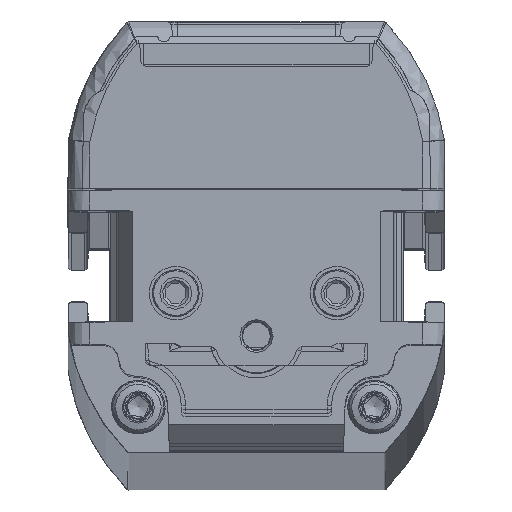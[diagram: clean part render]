
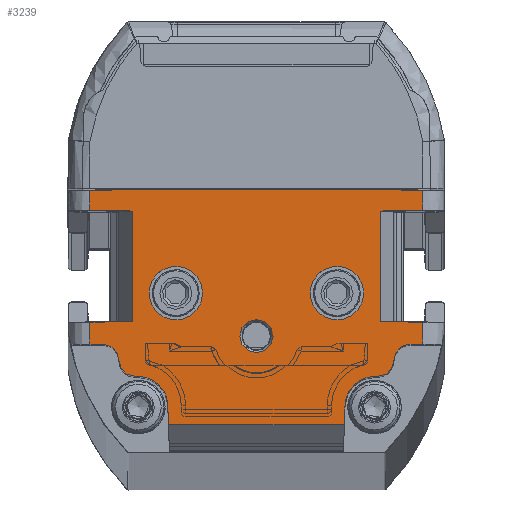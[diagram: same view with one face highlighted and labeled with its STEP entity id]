
A CAD part, top view. The second image highlights one B-rep face of the part: STEP entity #3239.
In plain terms, the highlighted planar face has unit normal (0, 0, 1).
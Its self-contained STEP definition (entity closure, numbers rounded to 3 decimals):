
#1178=FACE_BOUND('',#5343,.T.);
#1179=FACE_BOUND('',#5344,.T.);
#1180=FACE_BOUND('',#5345,.T.);
#1181=FACE_BOUND('',#5346,.T.);
#1900=CIRCLE('',#17502,2.5);
#1901=CIRCLE('',#17504,2.5);
#1902=CIRCLE('',#17506,1.55);
#1905=CIRCLE('',#17576,1.5);
#1906=CIRCLE('',#17577,1.5);
#1907=CIRCLE('',#17578,1.5);
#1908=CIRCLE('',#17579,1.5);
#1909=CIRCLE('',#17580,2.75);
#1910=CIRCLE('',#17581,2.75);
#3239=ADVANCED_FACE('',(#1178,#1179,#1180,#1181),#3754,.T.);
#3754=PLANE('',#17582);
#5343=EDGE_LOOP('',(#9281));
#5344=EDGE_LOOP('',(#9282));
#5345=EDGE_LOOP('',(#9283));
#5346=EDGE_LOOP('',(#9284,#9285,#9286,#9287,#9288,#9289,#9290,#9291,#9292,
#9293,#9294,#9295,#9296,#9297,#9298,#9299,#9300,#9301,#9302,#9303,#9304,
#9305,#9306,#9307,#9308,#9309));
#9281=ORIENTED_EDGE('',*,*,#13579,.T.);
#9282=ORIENTED_EDGE('',*,*,#13578,.F.);
#9283=ORIENTED_EDGE('',*,*,#13577,.F.);
#9284=ORIENTED_EDGE('',*,*,#13699,.F.);
#9285=ORIENTED_EDGE('',*,*,#13700,.T.);
#9286=ORIENTED_EDGE('',*,*,#13701,.T.);
#9287=ORIENTED_EDGE('',*,*,#13702,.T.);
#9288=ORIENTED_EDGE('',*,*,#13630,.T.);
#9289=ORIENTED_EDGE('',*,*,#13576,.T.);
#9290=ORIENTED_EDGE('',*,*,#13573,.T.);
#9291=ORIENTED_EDGE('',*,*,#13572,.T.);
#9292=ORIENTED_EDGE('',*,*,#13698,.T.);
#9293=ORIENTED_EDGE('',*,*,#13703,.F.);
#9294=ORIENTED_EDGE('',*,*,#13704,.F.);
#9295=ORIENTED_EDGE('',*,*,#13705,.F.);
#9296=ORIENTED_EDGE('',*,*,#13692,.T.);
#9297=ORIENTED_EDGE('',*,*,#13568,.F.);
#9298=ORIENTED_EDGE('',*,*,#13564,.T.);
#9299=ORIENTED_EDGE('',*,*,#13563,.F.);
#9300=ORIENTED_EDGE('',*,*,#13603,.T.);
#9301=ORIENTED_EDGE('',*,*,#13706,.F.);
#9302=ORIENTED_EDGE('',*,*,#13707,.T.);
#9303=ORIENTED_EDGE('',*,*,#13708,.T.);
#9304=ORIENTED_EDGE('',*,*,#13709,.F.);
#9305=ORIENTED_EDGE('',*,*,#13710,.F.);
#9306=ORIENTED_EDGE('',*,*,#13711,.F.);
#9307=ORIENTED_EDGE('',*,*,#13611,.T.);
#9308=ORIENTED_EDGE('',*,*,#13712,.F.);
#9309=ORIENTED_EDGE('',*,*,#13713,.F.);
#11499=VERTEX_POINT('',#29891);
#11500=VERTEX_POINT('',#29893);
#11501=VERTEX_POINT('',#29897);
#11502=VERTEX_POINT('',#29901);
#11504=VERTEX_POINT('',#29907);
#11506=VERTEX_POINT('',#29911);
#11507=VERTEX_POINT('',#29915);
#11508=VERTEX_POINT('',#29919);
#11509=VERTEX_POINT('',#29923);
#11510=VERTEX_POINT('',#29926);
#11511=VERTEX_POINT('',#29929);
#11528=VERTEX_POINT('',#30023);
#11533=VERTEX_POINT('',#30037);
#11534=VERTEX_POINT('',#30039);
#11547=VERTEX_POINT('',#30079);
#11581=VERTEX_POINT('',#30332);
#11585=VERTEX_POINT('',#30342);
#11586=VERTEX_POINT('',#30346);
#11587=VERTEX_POINT('',#30347);
#11588=VERTEX_POINT('',#30349);
#11589=VERTEX_POINT('',#30351);
#11590=VERTEX_POINT('',#30354);
#11591=VERTEX_POINT('',#30356);
#11592=VERTEX_POINT('',#30359);
#11593=VERTEX_POINT('',#30361);
#11594=VERTEX_POINT('',#30363);
#11595=VERTEX_POINT('',#30365);
#11596=VERTEX_POINT('',#30367);
#11597=VERTEX_POINT('',#30370);
#13563=EDGE_CURVE('',#11500,#11499,#15088,.T.);
#13564=EDGE_CURVE('',#11501,#11499,#15089,.T.);
#13568=EDGE_CURVE('',#11501,#11502,#15092,.T.);
#13572=EDGE_CURVE('',#11504,#11506,#15095,.T.);
#13573=EDGE_CURVE('',#11507,#11504,#15096,.T.);
#13576=EDGE_CURVE('',#11508,#11507,#15098,.T.);
#13577=EDGE_CURVE('',#11509,#11509,#1900,.T.);
#13578=EDGE_CURVE('',#11510,#11510,#1901,.T.);
#13579=EDGE_CURVE('',#11511,#11511,#1902,.T.);
#13603=EDGE_CURVE('',#11500,#11528,#15113,.T.);
#13611=EDGE_CURVE('',#11533,#11534,#15119,.T.);
#13630=EDGE_CURVE('',#11547,#11508,#15132,.T.);
#13692=EDGE_CURVE('',#11581,#11502,#15175,.T.);
#13698=EDGE_CURVE('',#11506,#11585,#15177,.T.);
#13699=EDGE_CURVE('',#11586,#11587,#15178,.T.);
#13700=EDGE_CURVE('',#11586,#11588,#1905,.T.);
#13701=EDGE_CURVE('',#11588,#11589,#1906,.T.);
#13702=EDGE_CURVE('',#11589,#11547,#15179,.T.);
#13703=EDGE_CURVE('',#11590,#11585,#15180,.T.);
#13704=EDGE_CURVE('',#11591,#11590,#15181,.T.);
#13705=EDGE_CURVE('',#11581,#11591,#15182,.T.);
#13706=EDGE_CURVE('',#11592,#11528,#15183,.T.);
#13707=EDGE_CURVE('',#11592,#11593,#1907,.T.);
#13708=EDGE_CURVE('',#11593,#11594,#1908,.T.);
#13709=EDGE_CURVE('',#11595,#11594,#15184,.T.);
#13710=EDGE_CURVE('',#11596,#11595,#1909,.T.);
#13711=EDGE_CURVE('',#11533,#11596,#15185,.T.);
#13712=EDGE_CURVE('',#11597,#11534,#15186,.T.);
#13713=EDGE_CURVE('',#11587,#11597,#1910,.T.);
#15088=LINE('',#29894,#16251);
#15089=LINE('',#29896,#16252);
#15092=LINE('',#29904,#16255);
#15095=LINE('',#29912,#16258);
#15096=LINE('',#29914,#16259);
#15098=LINE('',#29920,#16261);
#15113=LINE('',#30024,#16276);
#15119=LINE('',#30040,#16282);
#15132=LINE('',#30078,#16295);
#15175=LINE('',#30331,#16338);
#15177=LINE('',#30343,#16340);
#15178=LINE('',#30345,#16341);
#15179=LINE('',#30352,#16342);
#15180=LINE('',#30353,#16343);
#15181=LINE('',#30355,#16344);
#15182=LINE('',#30357,#16345);
#15183=LINE('',#30358,#16346);
#15184=LINE('',#30364,#16347);
#15185=LINE('',#30368,#16348);
#15186=LINE('',#30369,#16349);
#16251=VECTOR('',#20699,1.);
#16252=VECTOR('',#20702,1.);
#16255=VECTOR('',#20709,1.);
#16258=VECTOR('',#20716,1.);
#16259=VECTOR('',#20719,1.);
#16261=VECTOR('',#20725,1.);
#16276=VECTOR('',#20776,1.);
#16282=VECTOR('',#20790,1.);
#16295=VECTOR('',#20829,1.);
#16338=VECTOR('',#20940,1.);
#16340=VECTOR('',#20952,1.);
#16341=VECTOR('',#20955,1.);
#16342=VECTOR('',#20960,1.);
#16343=VECTOR('',#20961,1.);
#16344=VECTOR('',#20962,1.);
#16345=VECTOR('',#20963,1.);
#16346=VECTOR('',#20964,1.);
#16347=VECTOR('',#20969,1.);
#16348=VECTOR('',#20972,1.);
#16349=VECTOR('',#20973,1.);
#17502=AXIS2_PLACEMENT_3D('',#29922,#20728,#20729);
#17504=AXIS2_PLACEMENT_3D('',#29925,#20732,#20733);
#17506=AXIS2_PLACEMENT_3D('',#29928,#20736,#20737);
#17576=AXIS2_PLACEMENT_3D('',#30348,#20956,#20957);
#17577=AXIS2_PLACEMENT_3D('',#30350,#20958,#20959);
#17578=AXIS2_PLACEMENT_3D('',#30360,#20965,#20966);
#17579=AXIS2_PLACEMENT_3D('',#30362,#20967,#20968);
#17580=AXIS2_PLACEMENT_3D('',#30366,#20970,#20971);
#17581=AXIS2_PLACEMENT_3D('',#30371,#20974,#20975);
#17582=AXIS2_PLACEMENT_3D('',#30372,#20976,#20977);
#20699=DIRECTION('',(1.,0.017,0.));
#20702=DIRECTION('',(0.,-1.,0.));
#20709=DIRECTION('',(-1.,0.017,0.));
#20716=DIRECTION('',(1.,0.017,0.));
#20719=DIRECTION('',(0.,1.,0.));
#20725=DIRECTION('',(-1.,0.017,0.));
#20728=DIRECTION('',(0.,0.,1.));
#20729=DIRECTION('',(1.,0.,0.));
#20732=DIRECTION('',(0.,0.,1.));
#20733=DIRECTION('',(1.,0.,0.));
#20736=DIRECTION('',(0.,0.,-1.));
#20737=DIRECTION('',(1.,0.,0.));
#20776=DIRECTION('',(0.,-1.,0.));
#20790=DIRECTION('',(1.,0.,0.));
#20829=DIRECTION('',(0.,1.,0.));
#20940=DIRECTION('',(0.,-1.,0.));
#20952=DIRECTION('',(0.,1.,0.));
#20955=DIRECTION('',(-1.,0.,0.));
#20956=DIRECTION('',(0.,0.,1.));
#20957=DIRECTION('',(1.,0.,0.));
#20958=DIRECTION('',(0.,0.,-1.));
#20959=DIRECTION('',(1.,0.,0.));
#20960=DIRECTION('',(1.,0.,0.));
#20961=DIRECTION('',(1.,-0.017,0.));
#20962=DIRECTION('',(1.,0.,0.));
#20963=DIRECTION('',(1.,0.017,0.));
#20964=DIRECTION('',(-1.,0.,0.));
#20965=DIRECTION('',(0.,0.,-1.));
#20966=DIRECTION('',(1.,0.,0.));
#20967=DIRECTION('',(0.,0.,1.));
#20968=DIRECTION('',(1.,0.,0.));
#20969=DIRECTION('',(-1.,0.,0.));
#20970=DIRECTION('',(0.,0.,1.));
#20971=DIRECTION('',(1.,0.,0.));
#20972=DIRECTION('',(-0.035,0.999,0.));
#20973=DIRECTION('',(-0.035,-0.999,0.));
#20974=DIRECTION('',(0.,0.,1.));
#20975=DIRECTION('',(1.,0.,0.));
#20976=DIRECTION('',(0.,0.,1.));
#20977=DIRECTION('',(1.,0.,0.));
#29891=CARTESIAN_POINT('',(-11.55,12.107,2049.));
#29893=CARTESIAN_POINT('',(-15.5,12.038,2049.));
#29894=CARTESIAN_POINT('',(-17.709,11.999,2049.));
#29896=CARTESIAN_POINT('',(-11.55,0.,2049.));
#29897=CARTESIAN_POINT('',(-11.55,22.393,2049.));
#29901=CARTESIAN_POINT('',(-15.5,22.462,2049.));
#29904=CARTESIAN_POINT('',(-17.107,22.49,2049.));
#29907=CARTESIAN_POINT('',(11.55,22.393,2049.));
#29911=CARTESIAN_POINT('',(15.5,22.462,2049.));
#29912=CARTESIAN_POINT('',(-17.882,21.88,2049.));
#29914=CARTESIAN_POINT('',(11.55,0.,2049.));
#29915=CARTESIAN_POINT('',(11.55,12.107,2049.));
#29919=CARTESIAN_POINT('',(15.5,12.038,2049.));
#29920=CARTESIAN_POINT('',(-17.28,12.61,2049.));
#29922=CARTESIAN_POINT('',(-7.5,14.75,2049.));
#29923=CARTESIAN_POINT('',(-5.,14.75,2049.));
#29925=CARTESIAN_POINT('',(7.5,14.75,2049.));
#29926=CARTESIAN_POINT('',(10.,14.75,2049.));
#29928=CARTESIAN_POINT('',(0.,10.75,2049.));
#29929=CARTESIAN_POINT('',(1.55,10.75,2049.));
#30023=CARTESIAN_POINT('',(-15.5,10.,2049.));
#30024=CARTESIAN_POINT('',(-15.5,0.,2049.));
#30037=CARTESIAN_POINT('',(-8.189,2.5,2049.));
#30039=CARTESIAN_POINT('',(8.189,2.5,2049.));
#30040=CARTESIAN_POINT('',(-17.5,2.5,2049.));
#30078=CARTESIAN_POINT('',(15.5,0.,2049.));
#30079=CARTESIAN_POINT('',(15.5,10.,2049.));
#30331=CARTESIAN_POINT('',(-15.5,0.,2049.));
#30332=CARTESIAN_POINT('',(-15.5,24.317,2049.));
#30342=CARTESIAN_POINT('',(15.5,24.317,2049.));
#30343=CARTESIAN_POINT('',(15.5,0.,2049.));
#30345=CARTESIAN_POINT('',(23.25,7.,2049.));
#30346=CARTESIAN_POINT('',(11.3,7.,2049.));
#30347=CARTESIAN_POINT('',(11.002,7.,2049.));
#30348=CARTESIAN_POINT('',(11.3,8.5,2049.));
#30349=CARTESIAN_POINT('',(12.8,8.5,2049.));
#30350=CARTESIAN_POINT('',(14.3,8.5,2049.));
#30351=CARTESIAN_POINT('',(14.3,10.,2049.));
#30352=CARTESIAN_POINT('',(-17.5,10.,2049.));
#30353=CARTESIAN_POINT('',(-17.066,24.886,2049.));
#30354=CARTESIAN_POINT('',(13.025,24.36,2049.));
#30355=CARTESIAN_POINT('',(-17.5,24.36,2049.));
#30356=CARTESIAN_POINT('',(-13.025,24.36,2049.));
#30357=CARTESIAN_POINT('',(-17.924,24.275,2049.));
#30358=CARTESIAN_POINT('',(-17.5,10.,2049.));
#30359=CARTESIAN_POINT('',(-14.3,10.,2049.));
#30360=CARTESIAN_POINT('',(-14.3,8.5,2049.));
#30361=CARTESIAN_POINT('',(-12.8,8.5,2049.));
#30362=CARTESIAN_POINT('',(-11.3,8.5,2049.));
#30363=CARTESIAN_POINT('',(-11.3,7.,2049.));
#30364=CARTESIAN_POINT('',(-11.,7.,2049.));
#30365=CARTESIAN_POINT('',(-11.002,7.,2049.));
#30366=CARTESIAN_POINT('',(-11.002,4.25,2049.));
#30367=CARTESIAN_POINT('',(-8.253,4.346,2049.));
#30368=CARTESIAN_POINT('',(-8.25,4.25,2049.));
#30369=CARTESIAN_POINT('',(8.25,4.25,2049.));
#30370=CARTESIAN_POINT('',(8.253,4.346,2049.));
#30371=CARTESIAN_POINT('',(11.002,4.25,2049.));
#30372=CARTESIAN_POINT('',(-17.5,0.,2049.));
